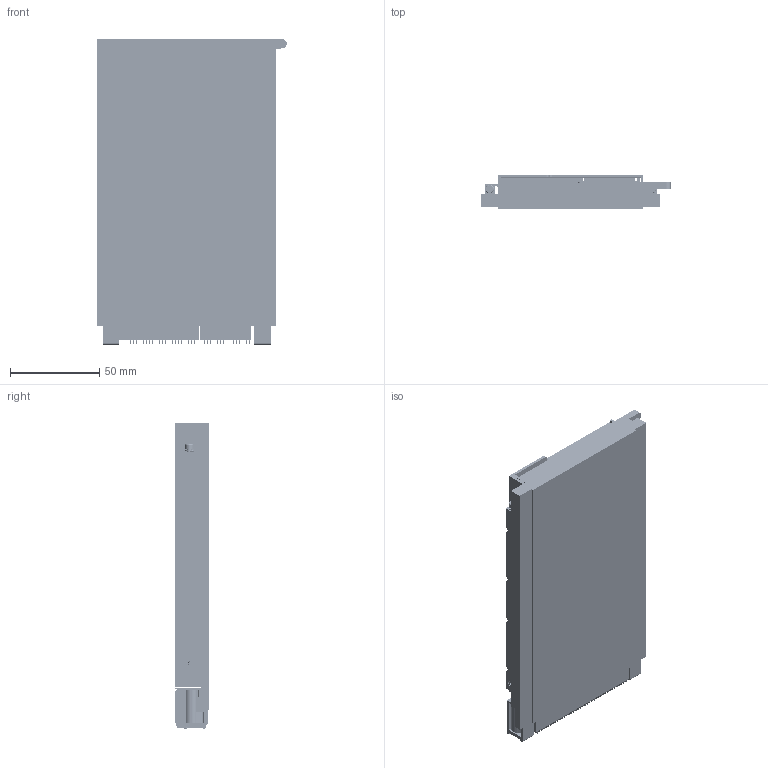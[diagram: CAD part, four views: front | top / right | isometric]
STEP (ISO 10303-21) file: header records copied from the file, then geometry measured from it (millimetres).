
FILE_DESCRIPTION (( 'STEP AP203' ), '1' );
FILE_NAME ('3U-VPX48.2-PS-265-51640.step', '2018-06-15T20:57:35', ( '' ), ( '' ), 'SwSTEP 2.0', 'SolidWorks 2014', '' );
FILE_SCHEMA (( 'CONFIG_CONTROL_DESIGN' ));
Products named in the file (1): 3U-VPX48.2-PS-265-51640
Bounding box: 105.88 x 19.27 x 170.75 mm (x, y, z)
Volume: 257417 mm3; surface area: 218750.8 mm2
Topology: 299 solids, 299 shells, 21592 faces, 60665 edges, 39336 vertices
Faces by surface type: plane 17790, cylinder 2646, bspline 998, cone 158
Entity records: 737038 total; most frequent: CARTESIAN_POINT 189070, ORIENTED_EDGE 117674, DIRECTION 104413, EDGE_CURVE 58837, VECTOR 50907, LINE 50907, VERTEX_POINT 39336, AXIS2_PLACEMENT_3D 26753
